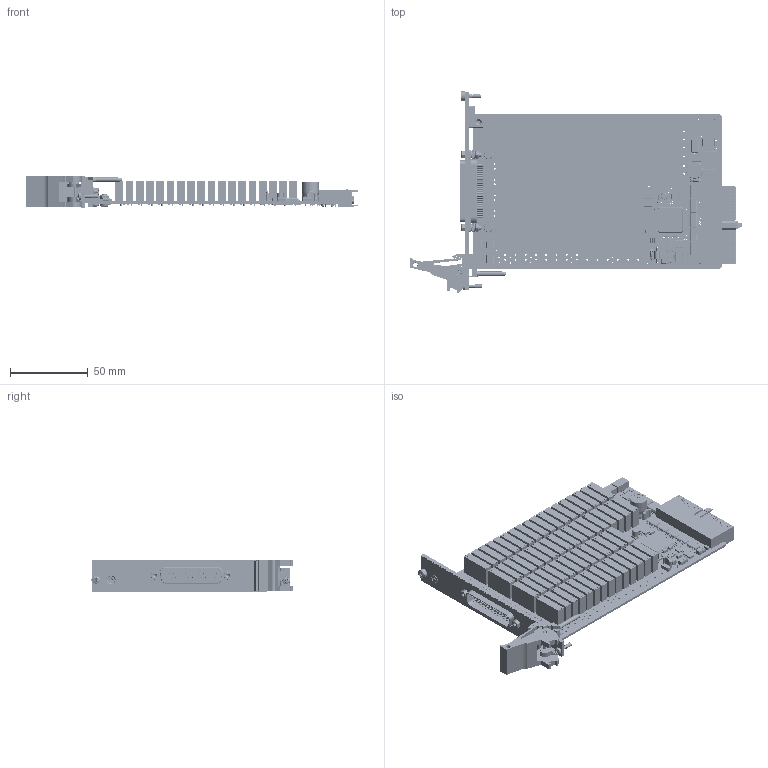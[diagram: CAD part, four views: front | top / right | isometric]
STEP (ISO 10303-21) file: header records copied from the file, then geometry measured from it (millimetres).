
FILE_DESCRIPTION (( 'STEP AP214' ), '1' );
FILE_NAME ('40-549-001 .STEP', '2019-12-13T12:06:59', ( '' ), ( '' ), 'SwSTEP 2.0', 'SolidWorks 2019', '' );
FILE_SCHEMA (( 'AUTOMOTIVE_DESIGN' ));
Length unit declared in the file: millimetre
Products named in the file (1): 40-549-001 
Bounding box: 214.01 x 129.67 x 20 mm (x, y, z)
Surface area: 133802.5 mm2 (no closed solid volume)
Topology: 0 solids, 509 shells, 22998 faces, 58469 edges, 37297 vertices
Faces by surface type: plane 13729, cylinder 7453, bspline 749, sphere 591, cone 273, torus 203
Entity records: 983978 total; most frequent: CARTESIAN_POINT 164270, ORIENTED_EDGE 115752, DIRECTION 115565, EDGE_CURVE 57878, VECTOR 39853, LINE 39853, AXIS2_PLACEMENT_3D 37856, VERTEX_POINT 37297
